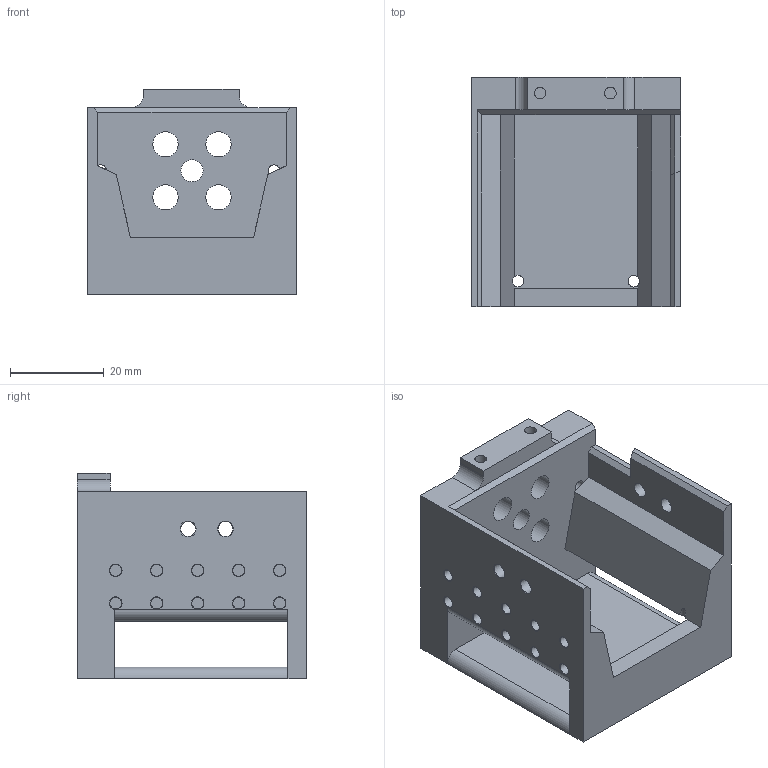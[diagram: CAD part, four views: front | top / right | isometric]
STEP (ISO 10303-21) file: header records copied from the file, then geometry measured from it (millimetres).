
FILE_DESCRIPTION(/* description */ (''),/* implementation_level */ '2;1');
FILE_NAME(/* name */ 'HeadHousing.step',/* time_stamp */ '2024-01-21T15:51:41+01:00',/* author */ (''),/* organization */ (''),/* preprocessor_version */ 'ST-DEVELOPER v20',/* originating_system */ 'Autodesk Translation Framework v12.14.0.127',/* authorisation */ '');
FILE_SCHEMA (('AUTOMOTIVE_DESIGN { 1 0 10303 214 3 1 1 }'));
Length unit declared in the file: millimetre
Products named in the file (1): HeadHousing
Bounding box: 44.72 x 49 x 43.9 mm (x, y, z)
Volume: 30259.6 mm3; surface area: 17213.9 mm2
Topology: 1 solids, 1 shells, 131 faces, 290 edges, 179 vertices
Faces by surface type: plane 56, cylinder 45, cone 30
Full cylindrical faces by diameter (mm): 2.5 x28, 3.2 x4, 4.75 x1, 5.4 x4
Entity records: 3697 total; most frequent: DIRECTION 678, CARTESIAN_POINT 601, ORIENTED_EDGE 580, EDGE_CURVE 290, AXIS2_PLACEMENT_3D 256, EDGE_LOOP 179, VERTEX_POINT 179, LINE 166
